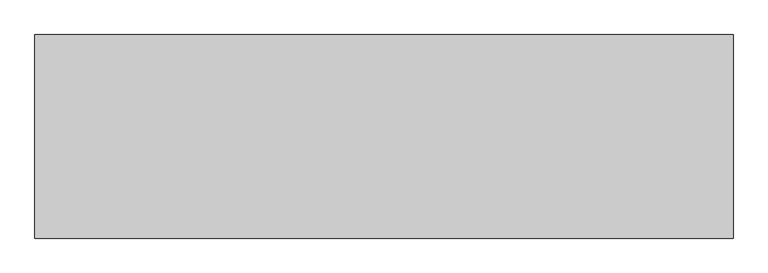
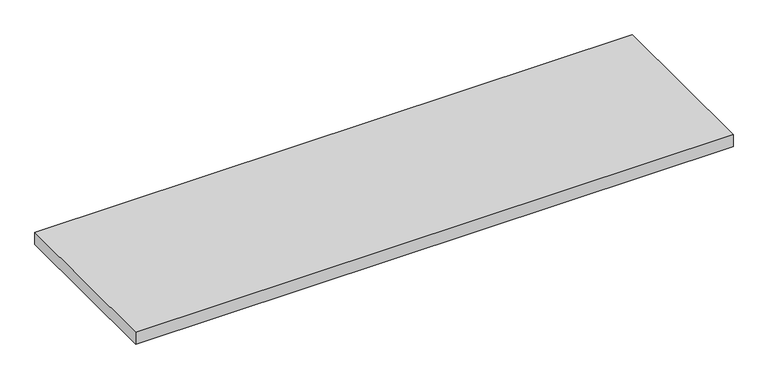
"""IFC4 building model written with IfcOpenShell, lengths in millimetres: furniture geometry."""

import ifcopenshell
import ifcopenshell.guid

model = None  # the IFC model being written
_history = None  # IfcOwnerHistory: only IFC2X3 demands one
_inside = {}  # id of a spatial element -> (the spatial element, [elements in it])
_under = {}  # id of a project, library or spatial element -> (it, [spatial elements below it])
_declared = {}  # id of a project -> (the project, [libraries it declares])
_typed = {}  # id of a type object -> (the type object, [elements of that type])
_made_of = {}  # id of a material, layer set ... -> (it, [elements and type objects made of it])


def new_model(schema):
    """Start an empty IFC model of exactly this schema.

    Asked for "IFC4X3", IfcOpenShell would pick the latest addendum, in which some entities
    have other attributes; the version numbers below select the first issue.
    IFC2X3 requires an IfcOwnerHistory on every rooted entity: one is made here for all.
    """
    global model, _history
    if schema == "IFC4X3":
        model = ifcopenshell.file(schema_version=(4, 3, 0, 0))
    else:
        model = ifcopenshell.file(schema=schema)
    _inside.clear()
    _under.clear()
    _declared.clear()
    _typed.clear()
    _made_of.clear()
    _history = None
    if model.schema == "IFC2X3":
        org = make("IfcOrganization", Name="unknown")
        user = make(
            "IfcPersonAndOrganization",
            ThePerson=make("IfcPerson", FamilyName="unknown"),
            TheOrganization=org,
        )
        app = make(
            "IfcApplication",
            ApplicationDeveloper=org,
            Version="unknown",
            ApplicationFullName="unknown",
            ApplicationIdentifier="unknown",
        )
        _history = make(
            "IfcOwnerHistory",
            OwningUser=user,
            OwningApplication=app,
            ChangeAction="ADDED",
            CreationDate=0,
        )
    return model


def make(cls, **values):
    """One entity of the class cls with the attributes given. An attribute that is None is left unset."""
    return model.create_entity(
        cls, **{name: value for name, value in values.items() if value is not None}
    )


def rooted(cls, **values):
    """An entity with a GlobalId (a new one), such as an element, a storey or a relation."""
    return make(cls, GlobalId=ifcopenshell.guid.new(), OwnerHistory=_history, **values)


def si_unit(unit_type, name, prefix=None):
    """IfcSIUnit, for example si_unit("LENGTHUNIT", "METRE", prefix="MILLI")."""
    return make("IfcSIUnit", UnitType=unit_type, Prefix=prefix, Name=name)


def assignment(units):
    """IfcUnitAssignment: the units of a project."""
    return None if units is None else make("IfcUnitAssignment", Units=units)


def point(xyz):
    """IfcCartesianPoint."""
    return None if xyz is None else make("IfcCartesianPoint", Coordinates=xyz)


def direction(xyz):
    """IfcDirection."""
    return None if xyz is None else make("IfcDirection", DirectionRatios=xyz)


def frame(location, z_axis=None, x_axis=None):
    """IfcAxis2Placement3D, a coordinate frame: its origin and axes. An axis left out is left unset."""
    return make(
        "IfcAxis2Placement3D",
        Location=point(location),
        Axis=direction(z_axis),
        RefDirection=direction(x_axis),
    )


def origin():
    """The frame at (0, 0, 0) with its axes left unset."""
    return frame((0.0, 0.0, 0.0))


def place(relative_to, where):
    """IfcLocalPlacement: puts the frame where relative to a parent placement (None: the world)."""
    return make(
        "IfcLocalPlacement", PlacementRelTo=relative_to, RelativePlacement=where
    )


def context(
    kind, dimensions, precision=None, world=None, true_north=None, identifier=None
):
    """IfcGeometricRepresentationContext, for example the 3D "Model" context."""
    return make(
        "IfcGeometricRepresentationContext",
        ContextIdentifier=identifier,
        ContextType=kind,
        CoordinateSpaceDimension=dimensions,
        Precision=precision,
        WorldCoordinateSystem=world,
        TrueNorth=true_north,
    )


def project(units=None, contexts=None):
    """IfcProject with its units and contexts."""
    return rooted(
        "IfcProject",
        Name="project",
        RepresentationContexts=contexts,
        UnitsInContext=assignment(units),
    )


def spatial(cls, under=None, at=None, **own):
    """A site, building, storey or space (cls), placed at a placement, below another one or the project."""
    s = rooted(cls, ObjectPlacement=at, **own)
    if under is not None:
        _under.setdefault(under.id(), (under, []))[1].append(s)
    return s


def polyline(points):
    """IfcPolyline through the points."""
    return make("IfcPolyline", Points=[point(p) for p in points])


def outline(outer, holes=None, kind="AREA"):
    """IfcArbitraryClosedProfileDef: a profile drawn as a closed curve; with holes, ...WithVoids."""
    if holes is None:
        return make("IfcArbitraryClosedProfileDef", ProfileType=kind, OuterCurve=outer)
    return make(
        "IfcArbitraryProfileDefWithVoids",
        ProfileType=kind,
        OuterCurve=outer,
        InnerCurves=holes,
    )


def extrude(swept, where, along, depth):
    """IfcExtrudedAreaSolid: the profile swept, set in the frame where, extruded along a direction by depth."""
    return make(
        "IfcExtrudedAreaSolid",
        SweptArea=swept,
        Position=where,
        ExtrudedDirection=direction(along),
        Depth=depth,
    )


def shape(context_of_items, identifier, shape_type, items):
    """IfcShapeRepresentation: the items that make up one representation, for example the "Body"."""
    return make(
        "IfcShapeRepresentation",
        ContextOfItems=context_of_items,
        RepresentationIdentifier=identifier,
        RepresentationType=shape_type,
        Items=items,
    )


def source(mapping_origin, context_of_items, identifier, shape_type, items):
    """IfcRepresentationMap: a shape defined once, which mapped items show again and again."""
    return make(
        "IfcRepresentationMap",
        MappingOrigin=mapping_origin,
        MappedRepresentation=shape(context_of_items, identifier, shape_type, items),
    )


def transform(
    local_origin,
    x_axis=None,
    y_axis=None,
    z_axis=None,
    scale=None,
    scale2=None,
    scale3=None,
    uniform=True,
):
    """IfcCartesianTransformationOperator3D, or its non-uniform kind. x_axis, y_axis, z_axis: its Axis1, 2, 3."""
    if uniform:
        return make(
            "IfcCartesianTransformationOperator3D",
            Axis1=direction(x_axis),
            Axis2=direction(y_axis),
            LocalOrigin=point(local_origin),
            Scale=scale,
            Axis3=direction(z_axis),
        )
    return make(
        "IfcCartesianTransformationOperator3DnonUniform",
        Axis1=direction(x_axis),
        Axis2=direction(y_axis),
        LocalOrigin=point(local_origin),
        Scale=scale,
        Axis3=direction(z_axis),
        Scale2=scale2,
        Scale3=scale3,
    )


def mapped(mapping_source, mapping_target):
    """IfcMappedItem: shows the shape of a source again, moved by a transform."""
    return make(
        "IfcMappedItem", MappingSource=mapping_source, MappingTarget=mapping_target
    )


def made_of(thing, what):
    """Note that an element or type object is made of a material, layer set ...; save() writes the relation."""
    if what is not None:
        _made_of.setdefault(what.id(), (what, []))[1].append(thing)
    return thing


def element(
    cls,
    number,
    at=None,
    inside=None,
    cuts=None,
    type_object=None,
    material=None,
    context=None,
    identifier="Body",
    shape_type=None,
    held_by="IfcProductDefinitionShape",
    body=None,
    shapes=None,
    **own,
):
    """One element of the class cls, such as IfcWall. Its Tag is "e" and its number.

    at: its placement. inside: the storey or other place that contains it. cuts: it is an
    opening in that element (IfcRelVoidsElement). A single representation is given by context,
    identifier, shape_type and body (its items); several are given by shapes. held_by: the class
    of the entity that holds the representations. save() writes the other relations.
    """
    e = rooted(cls, Tag="e%d" % number, ObjectPlacement=at, **own)
    if body is not None:
        shapes = [shape(context, identifier, shape_type, body)]
    if shapes is not None:
        e.Representation = make(held_by, Representations=shapes)
    if inside is not None:
        _inside.setdefault(inside.id(), (inside, []))[1].append(e)
    if cuts is not None:
        rooted(
            "IfcRelVoidsElement", RelatingBuildingElement=cuts, RelatedOpeningElement=e
        )
    if type_object is not None:
        _typed.setdefault(type_object.id(), (type_object, []))[1].append(e)
    return made_of(e, material)


def aggregate(whole, parts):
    """IfcRelAggregates: a whole, such as a stair, and the parts it consists of."""
    return rooted("IfcRelAggregates", RelatingObject=whole, RelatedObjects=parts)


def save(model, path):
    """Write the relations noted so far, then the file.

    IfcRelAggregates (storeys below a building ...), IfcRelContainedInSpatialStructure (elements
    in a storey), IfcRelDefinesByType, IfcRelAssociatesMaterial and IfcRelDeclares: one each for
    every whole, place, type object, material and project.
    """
    for whole, parts in _under.values():
        aggregate(whole, parts)
    for where, things in _inside.values():
        rooted(
            "IfcRelContainedInSpatialStructure",
            RelatedElements=things,
            RelatingStructure=where,
        )
    for kind, things in _typed.values():
        rooted("IfcRelDefinesByType", RelatedObjects=things, RelatingType=kind)
    for what, things in _made_of.values():
        rooted("IfcRelAssociatesMaterial", RelatedObjects=things, RelatingMaterial=what)
    for by, libraries in _declared.values():
        rooted("IfcRelDeclares", RelatingContext=by, RelatedDefinitions=libraries)
    model.write(path)


def furniture_8d18111b(model_context):
    return source(origin(), model_context, "Body", "SweptSolid", [
        extrude(outline(polyline([(609.6, -355.6), (-609.6, -355.6), (-609.6, 0.0), (609.6, 0.0), (609.6, -355.6)])), frame((0.0, 0.0, 1000.125), z_axis=(0.0, 0.0, 1.0), x_axis=(1.0, 0.0, 0.0)), (0.0, 0.0, 1.0), 25.4),
    ])


if __name__ == "__main__":
    model = new_model("IFC4")
    model_context = context("Model", 3, world=origin())
    ifc_project = project(units=[si_unit("LENGTHUNIT", "METRE", prefix="MILLI")], contexts=[model_context])
    site = spatial("IfcSite", under=ifc_project)
    building = spatial("IfcBuilding", under=site)
    placement = place(None, origin())
    furniture_shape = furniture_8d18111b(model_context)
    element("IfcFurniture", 1, ObjectType="HermanMiller_ActionOffice_A2830_Sq-EdgeTransactionSurfaceRectangularEnd : 14\"D x 48\"W", at=placement, inside=building, context=model_context, shape_type="MappedRepresentation", body=[
        mapped(furniture_shape, transform((0.0, 0.0, 0.0), x_axis=(1.0, 0.0, 0.0), y_axis=(0.0, 1.0, 0.0), z_axis=(0.0, 0.0, 1.0))),
    ])
    save(model, "model.ifc")
